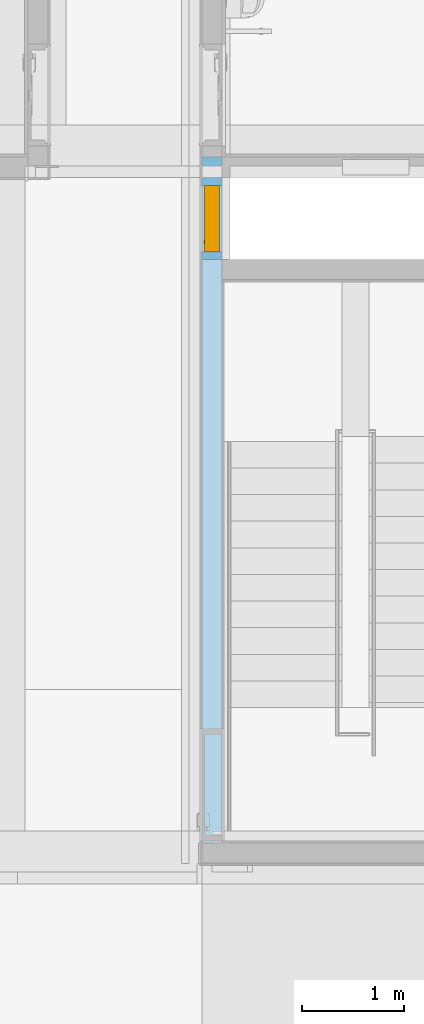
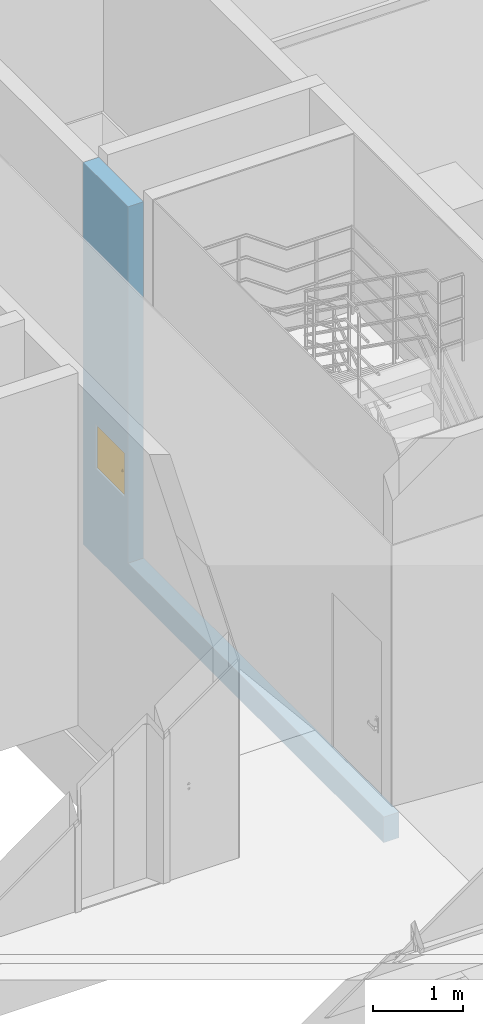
# One storey, part 44 of 100: 1 door, 2 openings, plus 1 element that does not belong to this part.
"""IFC2X3 building model written with IfcOpenShell, lengths in millimetres."""

from ifc_helpers import new_model, entity, si_unit, converted_unit, derived_unit, direction, frame, frame_2d, origin, place, context, subcontext, project, spatial, polyline, rectangle, extrude, clip, bounded_halfspace, faceted_brep, source, transform, mapped, material, material_list, layer, layer_set, layer_usage, type_object, type_shapes, element, fill, save


model = new_model("IFC2X3")

# Units and contexts
model_context = context("Model", 3, precision=0.01, world=origin(), true_north=direction((6.123031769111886e-17, 1.0)))
body_context = subcontext(model_context, "Body", "Model", "MODEL_VIEW")
ifc_project = project(units=[si_unit("LENGTHUNIT", "METRE", prefix="MILLI"), si_unit("AREAUNIT", "SQUARE_METRE"), si_unit("VOLUMEUNIT", "CUBIC_METRE"), converted_unit("PLANEANGLEUNIT", "DEGREE", entity("IfcRatioMeasure", 0.017453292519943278), si_unit("PLANEANGLEUNIT", "RADIAN"), dimensions=[0, 0, 0, 0, 0, 0, 0]), si_unit("MASSUNIT", "GRAM", prefix="KILO"), derived_unit("MASSDENSITYUNIT", [(si_unit("MASSUNIT", "GRAM", prefix="KILO"), 1), (si_unit("LENGTHUNIT", "METRE"), -3)]), derived_unit("MOMENTOFINERTIAUNIT", [(si_unit("LENGTHUNIT", "METRE"), 4)]), si_unit("TIMEUNIT", "SECOND"), si_unit("FREQUENCYUNIT", "HERTZ"), si_unit("THERMODYNAMICTEMPERATUREUNIT", "DEGREE_CELSIUS"), derived_unit("THERMALTRANSMITTANCEUNIT", [(si_unit("MASSUNIT", "GRAM", prefix="KILO"), 1), (si_unit("THERMODYNAMICTEMPERATUREUNIT", "KELVIN"), -1), (si_unit("TIMEUNIT", "SECOND"), -3)]), derived_unit("VOLUMETRICFLOWRATEUNIT", [(si_unit("LENGTHUNIT", "METRE"), 3), (si_unit("TIMEUNIT", "SECOND"), -1)]), derived_unit("MASSFLOWRATEUNIT", [(si_unit("MASSUNIT", "GRAM", prefix="KILO"), 1), (si_unit("TIMEUNIT", "SECOND"), -1)]), derived_unit("ROTATIONALFREQUENCYUNIT", [(si_unit("TIMEUNIT", "SECOND"), -1)]), si_unit("ELECTRICCURRENTUNIT", "AMPERE"), si_unit("ELECTRICVOLTAGEUNIT", "VOLT"), si_unit("POWERUNIT", "WATT"), si_unit("FORCEUNIT", "NEWTON", prefix="KILO"), si_unit("ILLUMINANCEUNIT", "LUX"), si_unit("LUMINOUSFLUXUNIT", "LUMEN"), si_unit("LUMINOUSINTENSITYUNIT", "CANDELA"), derived_unit("USERDEFINED", [(si_unit("MASSUNIT", "GRAM", prefix="KILO"), -1), (si_unit("LENGTHUNIT", "METRE"), -2), (si_unit("TIMEUNIT", "SECOND"), 3), (si_unit("LUMINOUSFLUXUNIT", "LUMEN"), 1)]), derived_unit("SOUNDPOWERUNIT", [(si_unit("MASSUNIT", "GRAM", prefix="KILO"), 1), (si_unit("LENGTHUNIT", "METRE"), 2), (si_unit("TIMEUNIT", "SECOND"), -3)]), derived_unit("SOUNDPRESSUREUNIT", [(si_unit("MASSUNIT", "GRAM", prefix="KILO"), 1), (si_unit("LENGTHUNIT", "METRE"), -1), (si_unit("TIMEUNIT", "SECOND"), -2)]), derived_unit("LINEARVELOCITYUNIT", [(si_unit("LENGTHUNIT", "METRE"), 1), (si_unit("TIMEUNIT", "SECOND"), -1)]), si_unit("PRESSUREUNIT", "PASCAL"), derived_unit("USERDEFINED", [(si_unit("LENGTHUNIT", "METRE"), -2), (si_unit("MASSUNIT", "GRAM", prefix="KILO"), 1), (si_unit("TIMEUNIT", "SECOND"), -2)]), derived_unit("LINEARFORCEUNIT", [(si_unit("MASSUNIT", "GRAM", prefix="KILO"), 1), (si_unit("LENGTHUNIT", "METRE"), 1), (si_unit("TIMEUNIT", "SECOND"), -2), (si_unit("LENGTHUNIT", "METRE"), -1)]), derived_unit("PLANARFORCEUNIT", [(si_unit("MASSUNIT", "GRAM", prefix="KILO"), 1), (si_unit("LENGTHUNIT", "METRE"), 1), (si_unit("TIMEUNIT", "SECOND"), -2), (si_unit("LENGTHUNIT", "METRE"), -2)])], contexts=[model_context])

# Site, building, storey
site_placement = place(None, frame((-14167.972527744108, -657.2125860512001, 0.0)))
site = spatial("IfcSite", under=ifc_project, at=site_placement, Name="Default", CompositionType="ELEMENT")
building_placement = place(site_placement, origin())
building = spatial("IfcBuilding", under=site, at=building_placement, Name="Sample Building", CompositionType="ELEMENT")
storey_placement = place(building_placement, origin())
storey = spatial("IfcBuildingStorey", under=building, at=storey_placement, Name="지상 1층", CompositionType="ELEMENT", Elevation=0.0)

# Wall, openings, door
ifc_material_1 = material(Name="KBIMS-콘크리트")
ifc_layer = layer(ifc_material_1, 200.0)
ifc_layer_set = layer_set([ifc_layer], Name="기본 벽:WA111-철근콘크리트구조 벽 200mm_CW1")
ifc_layer_usage = layer_usage(ifc_layer_set, "AXIS2", "NEGATIVE", 100.0)
wall_type = type_object("IfcWallType", Name="기본 벽:WA111-철근콘크리트구조 벽 200mm_CW1", PredefinedType="STANDARD", material=ifc_layer_set)
wall_placement = place(storey_placement, frame((38067.96379814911, 22457.212298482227, -550.0), z_axis=(0.0, 0.0, 1.0), x_axis=(0.0, -1.0, 0.0)))
wall = element("IfcWallStandardCase", 1, at=wall_placement, inside=storey, type_object=wall_type, material=ifc_layer_usage, Name="기본 벽:WA111-철근콘크리트구조 벽 200mm_CW1", ObjectType="기본 벽:WA111-철근콘크리트구조 벽 200mm_CW1", context=body_context, shape_type="Clipping", body=[
    clip(clip(extrude(rectangle(XDim=6700.000003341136, YDim=199.99999999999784, at=frame_2d((3350.000001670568, 0.0), x_axis=(-1.0, 0.0))), origin(), (0.0, 0.0, 1.0), 5200.000000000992), bounded_halfspace(frame((0.0, -100.0, 5200.0), z_axis=(0.0, 0.0, -1.0), x_axis=(0.0, 1.0, 0.0)), True, frame((0.0, -100.0, 5200.0), z_axis=(0.0, 0.0, -1.0), x_axis=(0.0, 1.0, 0.0)), polyline([(0.0, 0.0), (60960.0, 0.0), (60960.0, 2011680.0046911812), (60960.0, 2042160.0), (0.0, 2042160.0), (0.0, 60960.05639630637), (0.0, 0.0)]))), bounded_halfspace(frame((1000.0000066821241, -100.0, 350.0), z_axis=(-1.0, 0.0, 0.0), x_axis=(0.0, 0.0, 1.0)), True, frame((1000.0000066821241, -100.0, 350.0), z_axis=(-1.0, 0.0, 0.0), x_axis=(0.0, 0.0, 1.0)), polyline([(0.0, 0.0), (60960.0, 0.0), (60960.0, 60960.0), (0.0, 60960.0), (0.0, 0.0)]))),
])
opening_1_placement = place(wall_placement, frame((6682.052090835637, 100.0, 630.0)))
element("IfcOpeningElement", 2, at=opening_1_placement, cuts=wall, Name="DR111-외여닫이문(철재, 일반):DR111-외여닫이문(철재, 일반) 1100x2100mm 2:1", ObjectType="Opening", context=body_context, shape_type="SweptSolid", body=[
    extrude(rectangle(XDim=2099.999999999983, YDim=1100.0, at=frame_2d((1049.9999999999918, 550.0), x_axis=(1.0, 0.0))), frame((0.0, 0.0, 0.0), z_axis=(0.0, -1.0, 0.0), x_axis=(0.0, 0.0, 1.0)), (0.0, 0.0, 1.0), 200.0),
])
opening_2_placement = place(wall_placement, frame((925.0346247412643, 100.0, 1200.0)))
opening_2 = element("IfcOpeningElement", 3, at=opening_2_placement, cuts=wall, Name="DR872-샤프트 점검구(스테인리스 스틸):DR872-샤프트 점검구(스테인리스 스틸)_650x600:1", ObjectType="Opening", context=body_context, shape_type="SweptSolid", body=[
    extrude(rectangle(XDim=600.0, YDim=649.9999999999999, at=frame_2d((300.0, 324.99999999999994), x_axis=(1.0, 0.0))), frame((0.0, 0.0, 0.0), z_axis=(0.0, -1.0, 0.0), x_axis=(0.0, 0.0, 1.0)), (0.0, 0.0, 1.0), 200.0),
])
ifc_material_2 = material(Name="KBIMS-스테인리스 스틸_도금")
ifc_material_list = material_list([ifc_material_2, ifc_material_2, ifc_material_2, ifc_material_2])
door_style = type_object("IfcDoorStyle", Name="DR872-샤프트 점검구(스테인리스 스틸):DR872-샤프트 점검구(스테인리스 스틸)_650x600", ConstructionType="NOTDEFINED", OperationType="SINGLE_SWING_LEFT", ParameterTakesPrecedence=False, Sizeable=False, material=ifc_material_list)
shared_shape = source(origin(), body_context, "Body", "Brep", [
    faceted_brep([(105.0, 125.0, 282.67949192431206), (109.1421356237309, 125.0, 285.85786437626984), (102.50000000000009, 125.0, 287.0096189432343), (98.8822856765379, 125.0, 285.51111260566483), (100.17638090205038, 125.0, 280.6814834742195), (105.6066017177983, 125.0, 289.39339828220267), (112.32050807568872, 125.0, 290.0), (107.99038105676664, 125.0, 292.50000000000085), (109.48888739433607, 125.0, 296.1177143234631), (114.31851652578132, 125.0, 294.82361909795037), (110.0, 125.0, 300.0), (115.0, 125.0, 300.0), (109.48888739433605, 125.0, 303.8822856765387), (114.31851652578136, 125.0, 305.17638090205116), (107.9903810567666, 125.0, 307.5000000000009), (112.32050807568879, 125.0, 310.0), (105.60660171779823, 125.0, 310.6066017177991), (109.14213562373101, 125.0, 314.1421356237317), (102.50000000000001, 125.0, 312.9903810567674), (105.0, 125.0, 317.32050807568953), (98.8822856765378, 125.0, 314.48888739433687), (100.17638090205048, 125.0, 319.3185165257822), (95.0, 125.0, 315.0), (95.0, 125.0, 320.0), (91.11771432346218, 125.0, 314.48888739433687), (89.82361909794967, 125.0, 319.31851652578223), (87.5, 125.0, 312.9903810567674), (85.0, 125.0, 317.32050807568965), (84.39339828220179, 125.0, 310.6066017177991), (80.85786437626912, 125.0, 314.14213562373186), (82.00961894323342, 125.0, 307.5000000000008), (77.6794919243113, 125.0, 310.0), (75.68148347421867, 125.0, 305.17638090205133), (80.51111260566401, 125.0, 303.88228567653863), (75.0, 125.0, 300.0), (80.0, 125.0, 300.0), (75.68148347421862, 125.0, 294.8236190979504), (80.51111260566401, 125.0, 296.1177143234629), (77.67949192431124, 125.0, 290.0), (82.00961894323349, 125.0, 292.50000000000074), (80.85786437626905, 125.0, 285.8578643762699), (84.39339828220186, 125.0, 289.39339828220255), (85.0, 125.0, 282.67949192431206), (87.50000000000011, 125.0, 287.0096189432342), (89.82361909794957, 125.0, 280.6814834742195), (91.11771432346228, 125.0, 285.5111126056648), (95.0, 125.0, 280.0), (95.0, 125.0, 285.0), (105.0, 130.0, 317.32050807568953), (109.14213562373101, 130.0, 314.1421356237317), (102.50000000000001, 130.0, 312.9903810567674), (98.8822856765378, 130.0, 314.48888739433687), (100.17638090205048, 130.0, 319.3185165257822), (105.60660171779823, 130.0, 310.6066017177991), (112.32050807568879, 130.0, 310.0), (107.9903810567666, 130.0, 307.5000000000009), (109.48888739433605, 130.0, 303.8822856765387), (114.31851652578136, 130.0, 305.17638090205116), (110.0, 130.0, 300.0), (115.0, 130.0, 300.0), (109.48888739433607, 130.0, 296.1177143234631), (114.31851652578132, 130.0, 294.82361909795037), (107.99038105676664, 130.0, 292.50000000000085), (112.32050807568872, 130.0, 290.0), (105.6066017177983, 130.0, 289.39339828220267), (109.1421356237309, 130.0, 285.85786437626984), (102.50000000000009, 130.0, 287.0096189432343), (105.0, 130.0, 282.67949192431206), (98.8822856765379, 130.0, 285.51111260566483), (100.17638090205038, 130.0, 280.6814834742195), (95.0, 130.0, 285.0), (95.0, 130.0, 280.0), (91.11771432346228, 130.0, 285.5111126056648), (89.82361909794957, 130.0, 280.6814834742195), (87.50000000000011, 130.0, 287.0096189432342), (85.0, 130.0, 282.67949192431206), (84.39339828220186, 130.0, 289.39339828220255), (80.85786437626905, 130.0, 285.8578643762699), (82.00961894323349, 130.0, 292.50000000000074), (77.67949192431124, 130.0, 290.0), (75.68148347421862, 130.0, 294.8236190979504), (80.51111260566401, 130.0, 296.1177143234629), (75.0, 130.0, 300.0), (80.0, 130.0, 300.0), (75.68148347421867, 130.0, 305.17638090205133), (80.51111260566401, 130.0, 303.88228567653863), (77.6794919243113, 130.0, 310.0), (82.00961894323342, 130.0, 307.5000000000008), (80.85786437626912, 130.0, 314.14213562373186), (84.39339828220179, 130.0, 310.6066017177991), (85.0, 130.0, 317.32050807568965), (87.5, 130.0, 312.9903810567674), (89.82361909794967, 130.0, 319.31851652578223), (91.11771432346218, 130.0, 314.48888739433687), (95.0, 130.0, 320.0), (95.0, 130.0, 315.0)], [[[0, 1, 2]], [[0, 2, 3]], [[3, 4, 0]], [[2, 1, 5]], [[6, 5, 1]], [[7, 5, 6]], [[8, 7, 6]], [[8, 6, 9]], [[8, 9, 10]], [[10, 9, 11]], [[12, 10, 11]], [[12, 11, 13]], [[14, 12, 13]], [[14, 13, 15]], [[16, 14, 15]], [[15, 17, 16]], [[17, 18, 16]], [[18, 17, 19]], [[18, 19, 20]], [[21, 20, 19]], [[20, 21, 22]], [[22, 21, 23]], [[23, 24, 22]], [[24, 23, 25]], [[24, 25, 26]], [[27, 26, 25]], [[27, 28, 26]], [[27, 29, 28]], [[30, 28, 29]], [[31, 30, 29]], [[32, 30, 31]], [[33, 30, 32]], [[33, 32, 34]], [[34, 35, 33]], [[36, 35, 34]], [[36, 37, 35]], [[37, 36, 38]], [[39, 37, 38]], [[39, 38, 40]], [[39, 40, 41]], [[40, 42, 41]], [[41, 42, 43]], [[43, 42, 44]], [[44, 45, 43]], [[46, 45, 44]], [[4, 47, 46]], [[45, 46, 47]], [[4, 3, 47]], [[48, 49, 50]], [[48, 50, 51]], [[51, 52, 48]], [[50, 49, 53]], [[54, 53, 49]], [[55, 53, 54]], [[56, 55, 54]], [[56, 54, 57]], [[56, 57, 58]], [[58, 57, 59]], [[60, 58, 59]], [[60, 59, 61]], [[62, 60, 61]], [[62, 61, 63]], [[64, 62, 63]], [[63, 65, 64]], [[65, 66, 64]], [[66, 65, 67]], [[66, 67, 68]], [[69, 68, 67]], [[68, 69, 70]], [[70, 69, 71]], [[71, 72, 70]], [[72, 71, 73]], [[72, 73, 74]], [[75, 74, 73]], [[75, 76, 74]], [[75, 77, 76]], [[78, 76, 77]], [[79, 78, 77]], [[80, 78, 79]], [[81, 78, 80]], [[81, 80, 82]], [[82, 83, 81]], [[84, 83, 82]], [[84, 85, 83]], [[85, 84, 86]], [[87, 85, 86]], [[87, 86, 88]], [[87, 88, 89]], [[88, 90, 89]], [[89, 90, 91]], [[91, 90, 92]], [[92, 93, 91]], [[94, 93, 92]], [[52, 95, 94]], [[93, 94, 95]], [[52, 51, 95]], [[10, 58, 60, 8]], [[8, 60, 62, 7]], [[2, 5, 64, 66]], [[62, 64, 5, 7]], [[3, 2, 66, 68]], [[70, 47, 3, 68]], [[45, 72, 74, 43]], [[43, 74, 76, 41]], [[37, 39, 78, 81]], [[76, 78, 39, 41]], [[35, 37, 81, 83]], [[45, 47, 70, 72]], [[35, 83, 85, 33]], [[33, 85, 87, 30]], [[26, 28, 89, 91]], [[87, 89, 28, 30]], [[24, 26, 91, 93]], [[95, 22, 24, 93]], [[20, 51, 50, 18]], [[18, 50, 53, 16]], [[12, 14, 55, 56]], [[53, 55, 14, 16]], [[10, 12, 56, 58]], [[20, 22, 95, 51]], [[57, 13, 11, 59]], [[54, 15, 13, 57]], [[19, 17, 49, 48]], [[54, 49, 17, 15]], [[21, 19, 48, 52]], [[23, 21, 52, 94]], [[92, 25, 23, 94]], [[90, 27, 25, 92]], [[31, 29, 88, 86]], [[90, 88, 29, 27]], [[32, 31, 86, 84]], [[34, 32, 84, 82]], [[80, 36, 34, 82]], [[79, 38, 36, 80]], [[42, 40, 77, 75]], [[79, 77, 40, 38]], [[44, 42, 75, 73]], [[46, 44, 73, 71]], [[69, 4, 46, 71]], [[67, 0, 4, 69]], [[6, 1, 65, 63]], [[67, 65, 1, 0]], [[9, 6, 63, 61]], [[11, 9, 61, 59]]]),
    faceted_brep([(85.0, 180.0, 282.67949192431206), (80.85786437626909, 180.0, 285.85786437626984), (87.49999999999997, 180.0, 287.0096189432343), (91.11771432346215, 180.0, 285.51111260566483), (89.8236190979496, 180.0, 280.6814834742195), (84.39339828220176, 180.0, 289.39339828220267), (77.67949192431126, 180.0, 290.0), (82.00961894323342, 180.0, 292.50000000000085), (80.51111260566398, 180.0, 296.1177143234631), (75.68148347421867, 180.0, 294.82361909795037), (80.0, 180.0, 300.0), (75.0, 180.0, 300.0), (80.51111260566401, 180.0, 303.8822856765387), (75.68148347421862, 180.0, 305.17638090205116), (82.00961894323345, 180.0, 307.5000000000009), (77.6794919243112, 180.0, 310.0), (84.39339828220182, 180.0, 310.6066017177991), (80.85786437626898, 180.0, 314.1421356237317), (87.50000000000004, 180.0, 312.9903810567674), (85.0, 180.0, 317.32050807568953), (91.11771432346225, 180.0, 314.48888739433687), (89.8236190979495, 180.0, 319.3185165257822), (95.0, 180.0, 315.0), (95.0, 180.0, 320.0), (98.88228567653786, 180.0, 314.48888739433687), (100.17638090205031, 180.0, 319.31851652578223), (102.50000000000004, 180.0, 312.9903810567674), (105.0, 180.0, 317.32050807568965), (105.60660171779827, 180.0, 310.6066017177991), (109.14213562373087, 180.0, 314.14213562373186), (107.99038105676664, 180.0, 307.5000000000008), (112.32050807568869, 180.0, 310.0), (114.31851652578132, 180.0, 305.17638090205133), (109.48888739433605, 180.0, 303.88228567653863), (115.0, 180.0, 300.0), (110.0, 180.0, 300.0), (114.31851652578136, 180.0, 294.8236190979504), (109.48888739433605, 180.0, 296.1177143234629), (112.32050807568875, 180.0, 290.0), (107.99038105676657, 180.0, 292.50000000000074), (109.14213562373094, 180.0, 285.8578643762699), (105.6066017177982, 180.0, 289.39339828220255), (105.0, 180.0, 282.67949192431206), (102.49999999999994, 180.0, 287.0096189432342), (100.17638090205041, 180.0, 280.6814834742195), (98.88228567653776, 180.0, 285.5111126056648), (95.0, 180.0, 280.0), (95.0, 180.0, 285.0), (85.0, 175.0, 317.32050807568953), (80.85786437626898, 175.0, 314.1421356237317), (87.50000000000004, 175.0, 312.9903810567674), (91.11771432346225, 175.0, 314.48888739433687), (89.8236190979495, 175.0, 319.3185165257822), (84.39339828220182, 175.0, 310.6066017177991), (77.6794919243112, 175.0, 310.0), (82.00961894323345, 175.0, 307.5000000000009), (80.51111260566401, 175.0, 303.8822856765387), (75.68148347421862, 175.0, 305.17638090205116), (80.0, 175.0, 300.0), (75.0, 175.0, 300.0), (80.51111260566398, 175.0, 296.1177143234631), (75.68148347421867, 175.0, 294.82361909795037), (82.00961894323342, 175.0, 292.50000000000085), (77.67949192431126, 175.0, 290.0), (84.39339828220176, 175.0, 289.39339828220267), (80.85786437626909, 175.0, 285.85786437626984), (87.49999999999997, 175.0, 287.0096189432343), (85.0, 175.0, 282.67949192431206), (91.11771432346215, 175.0, 285.51111260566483), (89.8236190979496, 175.0, 280.6814834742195), (95.0, 175.0, 285.0), (95.0, 175.0, 280.0), (98.88228567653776, 175.0, 285.5111126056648), (100.17638090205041, 175.0, 280.6814834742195), (102.49999999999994, 175.0, 287.0096189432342), (105.0, 175.0, 282.67949192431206), (105.6066017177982, 175.0, 289.39339828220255), (109.14213562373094, 175.0, 285.8578643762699), (107.99038105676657, 175.0, 292.50000000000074), (112.32050807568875, 175.0, 290.0), (114.31851652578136, 175.0, 294.8236190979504), (109.48888739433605, 175.0, 296.1177143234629), (115.0, 175.0, 300.0), (110.0, 175.0, 300.0), (114.31851652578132, 175.0, 305.17638090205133), (109.48888739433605, 175.0, 303.88228567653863), (112.32050807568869, 175.0, 310.0), (107.99038105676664, 175.0, 307.5000000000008), (109.14213562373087, 175.0, 314.14213562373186), (105.60660171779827, 175.0, 310.6066017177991), (105.0, 175.0, 317.32050807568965), (102.50000000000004, 175.0, 312.9903810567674), (100.17638090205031, 175.0, 319.31851652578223), (98.88228567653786, 175.0, 314.48888739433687), (95.0, 175.0, 320.0), (95.0, 175.0, 315.0)], [[[0, 1, 2]], [[0, 2, 3]], [[3, 4, 0]], [[2, 1, 5]], [[6, 5, 1]], [[7, 5, 6]], [[8, 7, 6]], [[8, 6, 9]], [[8, 9, 10]], [[10, 9, 11]], [[12, 10, 11]], [[12, 11, 13]], [[14, 12, 13]], [[14, 13, 15]], [[16, 14, 15]], [[15, 17, 16]], [[17, 18, 16]], [[18, 17, 19]], [[18, 19, 20]], [[21, 20, 19]], [[20, 21, 22]], [[22, 21, 23]], [[23, 24, 22]], [[24, 23, 25]], [[24, 25, 26]], [[27, 26, 25]], [[27, 28, 26]], [[27, 29, 28]], [[30, 28, 29]], [[31, 30, 29]], [[32, 30, 31]], [[33, 30, 32]], [[33, 32, 34]], [[34, 35, 33]], [[36, 35, 34]], [[36, 37, 35]], [[37, 36, 38]], [[39, 37, 38]], [[39, 38, 40]], [[39, 40, 41]], [[40, 42, 41]], [[41, 42, 43]], [[43, 42, 44]], [[44, 45, 43]], [[46, 45, 44]], [[4, 47, 46]], [[45, 46, 47]], [[4, 3, 47]], [[48, 49, 50]], [[48, 50, 51]], [[51, 52, 48]], [[50, 49, 53]], [[54, 53, 49]], [[55, 53, 54]], [[56, 55, 54]], [[56, 54, 57]], [[56, 57, 58]], [[58, 57, 59]], [[60, 58, 59]], [[60, 59, 61]], [[62, 60, 61]], [[62, 61, 63]], [[64, 62, 63]], [[63, 65, 64]], [[65, 66, 64]], [[66, 65, 67]], [[66, 67, 68]], [[69, 68, 67]], [[68, 69, 70]], [[70, 69, 71]], [[71, 72, 70]], [[72, 71, 73]], [[72, 73, 74]], [[75, 74, 73]], [[75, 76, 74]], [[75, 77, 76]], [[78, 76, 77]], [[79, 78, 77]], [[80, 78, 79]], [[81, 78, 80]], [[81, 80, 82]], [[82, 83, 81]], [[84, 83, 82]], [[84, 85, 83]], [[85, 84, 86]], [[87, 85, 86]], [[87, 86, 88]], [[87, 88, 89]], [[88, 90, 89]], [[89, 90, 91]], [[91, 90, 92]], [[92, 93, 91]], [[94, 93, 92]], [[52, 95, 94]], [[93, 94, 95]], [[52, 51, 95]], [[35, 83, 85, 33]], [[33, 85, 87, 30]], [[26, 28, 89, 91]], [[87, 89, 28, 30]], [[24, 26, 91, 93]], [[95, 22, 24, 93]], [[20, 51, 50, 18]], [[18, 50, 53, 16]], [[12, 14, 55, 56]], [[53, 55, 14, 16]], [[10, 12, 56, 58]], [[20, 22, 95, 51]], [[10, 58, 60, 8]], [[8, 60, 62, 7]], [[2, 5, 64, 66]], [[62, 64, 5, 7]], [[3, 2, 66, 68]], [[70, 47, 3, 68]], [[45, 72, 74, 43]], [[43, 74, 76, 41]], [[37, 39, 78, 81]], [[76, 78, 39, 41]], [[35, 37, 81, 83]], [[45, 47, 70, 72]], [[80, 36, 34, 82]], [[79, 38, 36, 80]], [[42, 40, 77, 75]], [[79, 77, 40, 38]], [[44, 42, 75, 73]], [[46, 44, 73, 71]], [[69, 4, 46, 71]], [[67, 0, 4, 69]], [[6, 1, 65, 63]], [[67, 65, 1, 0]], [[9, 6, 63, 61]], [[11, 9, 61, 59]], [[57, 13, 11, 59]], [[54, 15, 13, 57]], [[19, 17, 49, 48]], [[54, 49, 17, 15]], [[21, 19, 48, 52]], [[23, 21, 52, 94]], [[92, 25, 23, 94]], [[90, 27, 25, 92]], [[31, 29, 88, 86]], [[90, 88, 29, 27]], [[32, 31, 86, 84]], [[34, 32, 84, 82]]]),
    faceted_brep([(620.0, 175.0, 570.0), (30.0, 175.0, 570.0), (30.0, 130.0, 570.0), (620.0, 130.0, 570.0), (620.0, 175.0, 30.0), (620.0, 130.0, 30.0), (30.0, 130.0, 30.0), (30.0, 175.0, 30.0)], [[[0, 1, 2, 3]], [[4, 5, 6, 7]], [[1, 0, 4, 7]], [[2, 1, 7, 6]], [[3, 2, 6, 5]], [[0, 3, 5, 4]]]),
    faceted_brep([(30.0, 130.0, 570.0), (30.0, 175.0, 570.0), (620.0, 175.0, 570.0), (620.0, 130.0, 570.0), (60.0, 25.0, 540.0), (60.0, 130.0, 540.0), (590.0, 130.0, 540.0), (590.0, 25.0, 540.0), (0.0, 175.0, 600.0), (0.0, 25.0, 600.0), (650.0, 25.0, 600.0), (650.0, 175.0, 600.0), (620.0, 175.0, 30.0), (620.0, 130.0, 30.0), (590.0, 130.0, 60.0), (590.0, 25.0, 60.0), (650.0, 25.0, 0.0), (650.0, 175.0, 0.0), (30.0, 175.0, 30.0), (30.0, 130.0, 30.0), (60.0, 130.0, 60.0), (60.0, 25.0, 60.0), (0.0, 25.0, 0.0), (0.0, 175.0, 0.0)], [[[0, 1, 2, 3]], [[4, 5, 6, 7]], [[8, 9, 10, 11]], [[3, 2, 12, 13]], [[7, 6, 14, 15]], [[11, 10, 16, 17]], [[13, 12, 18, 19]], [[15, 14, 20, 21]], [[17, 16, 22, 23]], [[19, 18, 1, 0]], [[3, 13, 19, 0], [5, 20, 14, 6]], [[21, 20, 5, 4]], [[7, 15, 21, 4], [9, 22, 16, 10]], [[23, 22, 9, 8]], [[11, 17, 23, 8], [1, 18, 12, 2]]], outer=[[True], [True], [True], [True], [True], [True], [True], [True], [True], [True], [True, False], [True], [False, True], [True], [True, False]]),
])
type_shapes(door_style, [shared_shape])
door_placement = place(opening_2_placement, frame((0.0, 0.0, 0.0), z_axis=(0.0, 0.0, 1.0), x_axis=(-1.0, 0.0, 0.0)))
door = element("IfcDoor", 4, at=door_placement, inside=storey, type_object=door_style, material=ifc_material_2, Name="DR872-샤프트 점검구(스테인리스 스틸):DR872-샤프트 점검구(스테인리스 스틸)_650x600", ObjectType="DR872-샤프트 점검구(스테인리스 스틸):DR872-샤프트 점검구(스테인리스 스틸)_650x600", OverallHeight=600.0, OverallWidth=649.9999999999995, context=body_context, shape_type="MappedRepresentation", body=[
    mapped(shared_shape, transform((0.0, 0.0, 0.0), scale=1.0)),
])
fill(opening_2, door)

save(model, "model.ifc")
